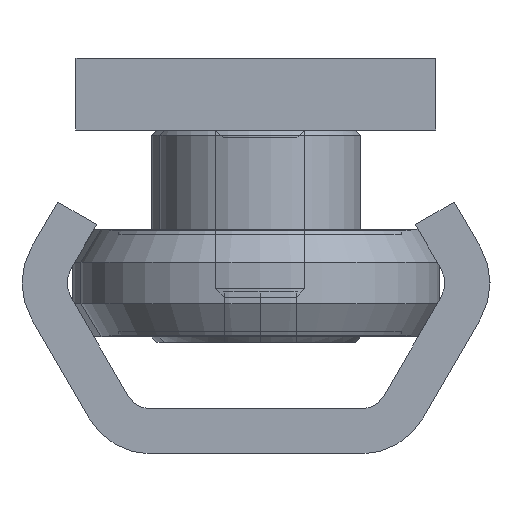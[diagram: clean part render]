
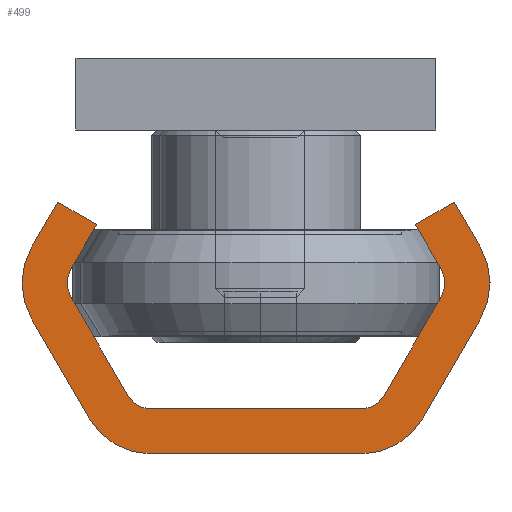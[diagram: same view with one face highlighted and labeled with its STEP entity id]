
A CAD part, left-side view. The second image highlights one B-rep face of the part: STEP entity #499.
In plain terms, the highlighted planar face has unit normal (-1, 0, 0).
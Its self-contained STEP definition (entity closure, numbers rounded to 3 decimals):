
#499 = ADVANCED_FACE( '', ( #1117 ), #1118, .F. );
#1117 = FACE_OUTER_BOUND( '', #2001, .T. );
#1118 = PLANE( '', #2002 );
#2001 = EDGE_LOOP( '', ( #3138, #3139, #3140, #3141, #3142, #3143, #3144, #3145, #3146, #3147, #3148, #3149, #3150, #3151, #3152, #3153, #3154, #3155, #3156, #3157 ) );
#2002 = AXIS2_PLACEMENT_3D( '', #3158, #3159, #3160 );
#3138 = ORIENTED_EDGE( '', *, *, #4273, .F. );
#3139 = ORIENTED_EDGE( '', *, *, #4274, .F. );
#3140 = ORIENTED_EDGE( '', *, *, #4275, .F. );
#3141 = ORIENTED_EDGE( '', *, *, #4037, .F. );
#3142 = ORIENTED_EDGE( '', *, *, #4129, .F. );
#3143 = ORIENTED_EDGE( '', *, *, #4276, .F. );
#3144 = ORIENTED_EDGE( '', *, *, #4277, .F. );
#3145 = ORIENTED_EDGE( '', *, *, #4278, .T. );
#3146 = ORIENTED_EDGE( '', *, *, #4279, .F. );
#3147 = ORIENTED_EDGE( '', *, *, #4229, .T. );
#3148 = ORIENTED_EDGE( '', *, *, #4084, .F. );
#3149 = ORIENTED_EDGE( '', *, *, #4172, .T. );
#3150 = ORIENTED_EDGE( '', *, *, #4280, .F. );
#3151 = ORIENTED_EDGE( '', *, *, #4124, .T. );
#3152 = ORIENTED_EDGE( '', *, *, #4169, .F. );
#3153 = ORIENTED_EDGE( '', *, *, #4281, .F. );
#3154 = ORIENTED_EDGE( '', *, *, #4282, .F. );
#3155 = ORIENTED_EDGE( '', *, *, #4283, .F. );
#3156 = ORIENTED_EDGE( '', *, *, #4284, .F. );
#3157 = ORIENTED_EDGE( '', *, *, #4285, .F. );
#3158 = CARTESIAN_POINT( '', ( 0., -5.825, -4. ) );
#3159 = DIRECTION( '', ( 1., 0., 0. ) );
#3160 = DIRECTION( '', ( 0., 0., -1. ) );
#4037 = EDGE_CURVE( '', #4622, #4623, #4624, .T. );
#4084 = EDGE_CURVE( '', #4713, #4714, #4715, .T. );
#4124 = EDGE_CURVE( '', #4779, #4780, #4781, .T. );
#4129 = EDGE_CURVE( '', #4788, #4622, #4789, .T. );
#4169 = EDGE_CURVE( '', #4853, #4780, #4854, .T. );
#4172 = EDGE_CURVE( '', #4713, #4857, #4858, .T. );
#4229 = EDGE_CURVE( '', #4942, #4714, #4943, .T. );
#4273 = EDGE_CURVE( '', #5009, #5010, #5011, .T. );
#4274 = EDGE_CURVE( '', #5012, #5009, #5013, .T. );
#4275 = EDGE_CURVE( '', #4623, #5012, #5014, .T. );
#4276 = EDGE_CURVE( '', #5015, #4788, #5016, .T. );
#4277 = EDGE_CURVE( '', #5017, #5015, #5018, .T. );
#4278 = EDGE_CURVE( '', #5017, #5019, #5020, .T. );
#4279 = EDGE_CURVE( '', #4942, #5019, #5021, .T. );
#4280 = EDGE_CURVE( '', #4779, #4857, #5022, .T. );
#4281 = EDGE_CURVE( '', #5023, #4853, #5024, .T. );
#4282 = EDGE_CURVE( '', #5025, #5023, #5026, .T. );
#4283 = EDGE_CURVE( '', #5027, #5025, #5028, .T. );
#4284 = EDGE_CURVE( '', #5029, #5027, #5030, .T. );
#4285 = EDGE_CURVE( '', #5010, #5029, #5031, .T. );
#4622 = VERTEX_POINT( '', #5433 );
#4623 = VERTEX_POINT( '', #5434 );
#4624 = CIRCLE( '', #5435, 4. );
#4713 = VERTEX_POINT( '', #5532 );
#4714 = VERTEX_POINT( '', #5533 );
#4715 = LINE( '', #5534, #5535 );
#4779 = VERTEX_POINT( '', #5611 );
#4780 = VERTEX_POINT( '', #5612 );
#4781 = CIRCLE( '', #5613, 1.5 );
#4788 = VERTEX_POINT( '', #5622 );
#4789 = LINE( '', #5623, #5624 );
#4853 = VERTEX_POINT( '', #5703 );
#4854 = LINE( '', #5704, #5705 );
#4857 = VERTEX_POINT( '', #5709 );
#4858 = CIRCLE( '', #5710, 1.5 );
#4942 = VERTEX_POINT( '', #5812 );
#4943 = CIRCLE( '', #5813, 1.5 );
#5009 = VERTEX_POINT( '', #5888 );
#5010 = VERTEX_POINT( '', #5889 );
#5011 = LINE( '', #5890, #5891 );
#5012 = VERTEX_POINT( '', #5892 );
#5013 = CIRCLE( '', #5893, 4. );
#5014 = LINE( '', #5894, #5895 );
#5015 = VERTEX_POINT( '', #5896 );
#5016 = LINE( '', #5897, #5898 );
#5017 = VERTEX_POINT( '', #5899 );
#5018 = LINE( '', #5900, #5901 );
#5019 = VERTEX_POINT( '', #5902 );
#5020 = CIRCLE( '', #5903, 1.5 );
#5021 = LINE( '', #5904, #5905 );
#5022 = LINE( '', #5906, #5907 );
#5023 = VERTEX_POINT( '', #5908 );
#5024 = LINE( '', #5909, #5910 );
#5025 = VERTEX_POINT( '', #5911 );
#5026 = LINE( '', #5912, #5913 );
#5027 = VERTEX_POINT( '', #5914 );
#5028 = CIRCLE( '', #5915, 4. );
#5029 = VERTEX_POINT( '', #5916 );
#5030 = LINE( '', #5917, #5918 );
#5031 = CIRCLE( '', #5919, 4. );
#5433 = CARTESIAN_POINT( '', ( 0., 12.464, -11.5 ) );
#5434 = CARTESIAN_POINT( '', ( 0., 12.464, -7.5 ) );
#5435 = AXIS2_PLACEMENT_3D( '', #6386, #6387, #6388 );
#5532 = CARTESIAN_POINT( '', ( 0., -5.825, -2.5 ) );
#5533 = CARTESIAN_POINT( '', ( 0., 5.825, -2.5 ) );
#5534 = CARTESIAN_POINT( '', ( 0., -5.825, -2.5 ) );
#5535 = VECTOR( '', #6502, 1000. );
#5611 = CARTESIAN_POINT( '', ( 0., -10.299, -8.75 ) );
#5612 = CARTESIAN_POINT( '', ( 0., -10.299, -10.25 ) );
#5613 = AXIS2_PLACEMENT_3D( '', #6560, #6561, #6562 );
#5622 = CARTESIAN_POINT( '', ( 0., 11.021, -14. ) );
#5623 = CARTESIAN_POINT( '', ( 0., 11.021, -14. ) );
#5624 = VECTOR( '', #6568, 1000. );
#5703 = CARTESIAN_POINT( '', ( 0., -8.856, -12.75 ) );
#5704 = CARTESIAN_POINT( '', ( 0., -8.856, -12.75 ) );
#5705 = VECTOR( '', #6629, 1000. );
#5709 = CARTESIAN_POINT( '', ( 0., -7.124, -3.25 ) );
#5710 = AXIS2_PLACEMENT_3D( '', #6631, #6632, #6633 );
#5812 = CARTESIAN_POINT( '', ( 0., 7.124, -3.25 ) );
#5813 = AXIS2_PLACEMENT_3D( '', #6712, #6713, #6714 );
#5888 = CARTESIAN_POINT( '', ( 0., 5.825, 0. ) );
#5889 = CARTESIAN_POINT( '', ( 0., -5.825, 0. ) );
#5890 = CARTESIAN_POINT( '', ( 0., 5.825, 0. ) );
#5891 = VECTOR( '', #6778, 1000. );
#5892 = CARTESIAN_POINT( '', ( 0., 9.289, -2. ) );
#5893 = AXIS2_PLACEMENT_3D( '', #6779, #6780, #6781 );
#5894 = CARTESIAN_POINT( '', ( 0., 12.464, -7.5 ) );
#5895 = VECTOR( '', #6782, 1000. );
#5896 = CARTESIAN_POINT( '', ( 0., 8.856, -12.75 ) );
#5897 = CARTESIAN_POINT( '', ( 0., 8.856, -12.75 ) );
#5898 = VECTOR( '', #6783, 1000. );
#5899 = CARTESIAN_POINT( '', ( 0., 10.299, -10.25 ) );
#5900 = CARTESIAN_POINT( '', ( 0., 10.299, -10.25 ) );
#5901 = VECTOR( '', #6784, 1000. );
#5902 = CARTESIAN_POINT( '', ( 0., 10.299, -8.75 ) );
#5903 = AXIS2_PLACEMENT_3D( '', #6785, #6786, #6787 );
#5904 = CARTESIAN_POINT( '', ( 0., 7.124, -3.25 ) );
#5905 = VECTOR( '', #6788, 1000. );
#5906 = CARTESIAN_POINT( '', ( 0., -10.299, -8.75 ) );
#5907 = VECTOR( '', #6789, 1000. );
#5908 = CARTESIAN_POINT( '', ( 0., -11.021, -14. ) );
#5909 = CARTESIAN_POINT( '', ( 0., -11.021, -14. ) );
#5910 = VECTOR( '', #6790, 1000. );
#5911 = CARTESIAN_POINT( '', ( 0., -12.464, -11.5 ) );
#5912 = CARTESIAN_POINT( '', ( 0., -12.464, -11.5 ) );
#5913 = VECTOR( '', #6791, 1000. );
#5914 = CARTESIAN_POINT( '', ( 0., -12.464, -7.5 ) );
#5915 = AXIS2_PLACEMENT_3D( '', #6792, #6793, #6794 );
#5916 = CARTESIAN_POINT( '', ( 0., -9.289, -2. ) );
#5917 = CARTESIAN_POINT( '', ( 0., -9.289, -2. ) );
#5918 = VECTOR( '', #6795, 1000. );
#5919 = AXIS2_PLACEMENT_3D( '', #6796, #6797, #6798 );
#6386 = CARTESIAN_POINT( '', ( 0., 9., -9.5 ) );
#6387 = DIRECTION( '', ( 1., 0., 0. ) );
#6388 = DIRECTION( '', ( 0., 0., -1. ) );
#6502 = DIRECTION( '', ( 0., 1., 0. ) );
#6560 = CARTESIAN_POINT( '', ( 0., -9., -9.5 ) );
#6561 = DIRECTION( '', ( 1., 0., 0. ) );
#6562 = DIRECTION( '', ( 0., 0., -1. ) );
#6568 = DIRECTION( '', ( 0., 0.5, 0.866 ) );
#6629 = DIRECTION( '', ( 0., -0.5, 0.866 ) );
#6631 = CARTESIAN_POINT( '', ( 0., -5.825, -4. ) );
#6632 = DIRECTION( '', ( 1., 0., 0. ) );
#6633 = DIRECTION( '', ( 0., 0., -1. ) );
#6712 = CARTESIAN_POINT( '', ( 0., 5.825, -4. ) );
#6713 = DIRECTION( '', ( 1., 0., 0. ) );
#6714 = DIRECTION( '', ( 0., 0., -1. ) );
#6778 = DIRECTION( '', ( 0., -1., 0. ) );
#6779 = CARTESIAN_POINT( '', ( 0., 5.825, -4. ) );
#6780 = DIRECTION( '', ( 1., 0., 0. ) );
#6781 = DIRECTION( '', ( 0., 0., -1. ) );
#6782 = DIRECTION( '', ( 0., -0.5, 0.866 ) );
#6783 = DIRECTION( '', ( 0., 0.866, -0.5 ) );
#6784 = DIRECTION( '', ( 0., -0.5, -0.866 ) );
#6785 = CARTESIAN_POINT( '', ( 0., 9., -9.5 ) );
#6786 = DIRECTION( '', ( 1., 0., 0. ) );
#6787 = DIRECTION( '', ( 0., 0., -1. ) );
#6788 = DIRECTION( '', ( 0., 0.5, -0.866 ) );
#6789 = DIRECTION( '', ( 0., 0.5, 0.866 ) );
#6790 = DIRECTION( '', ( 0., 0.866, 0.5 ) );
#6791 = DIRECTION( '', ( 0., 0.5, -0.866 ) );
#6792 = CARTESIAN_POINT( '', ( 0., -9., -9.5 ) );
#6793 = DIRECTION( '', ( 1., 0., 0. ) );
#6794 = DIRECTION( '', ( 0., 0., -1. ) );
#6795 = DIRECTION( '', ( 0., -0.5, -0.866 ) );
#6796 = CARTESIAN_POINT( '', ( 0., -5.825, -4. ) );
#6797 = DIRECTION( '', ( 1., 0., 0. ) );
#6798 = DIRECTION( '', ( 0., 0., -1. ) );
